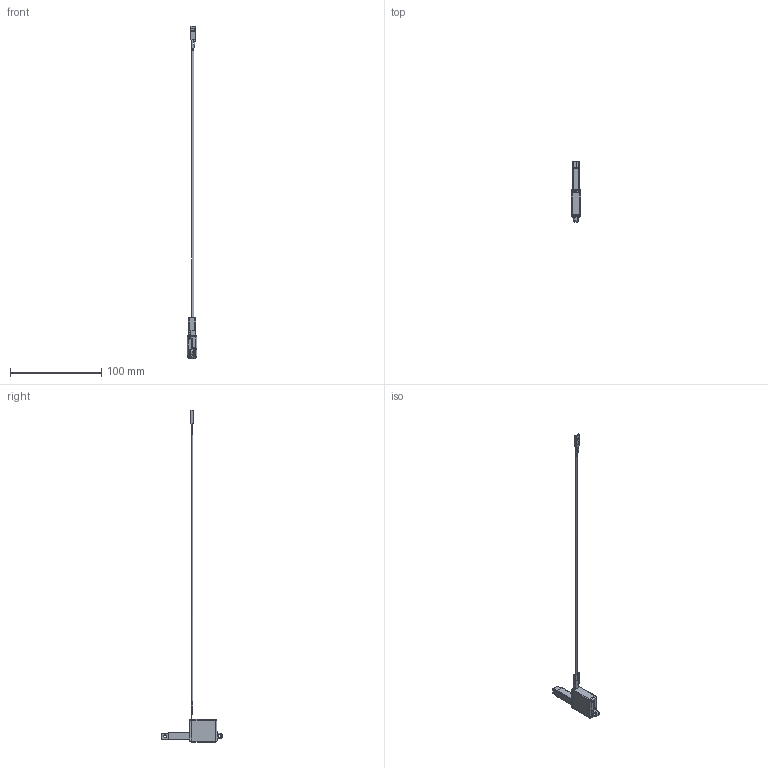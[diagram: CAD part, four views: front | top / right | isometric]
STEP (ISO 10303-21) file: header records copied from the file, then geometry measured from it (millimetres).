
FILE_DESCRIPTION((''),'2;1');
FILE_NAME('P8-25MM_ASM','2021-01-21T',('princ'),(''),'PRO/ENGINEER BY PARAMETRIC TECHNOLOGY CORPORATION, 2004440','PRO/ENGINEER BY PARAMETRIC TECHNOLOGY CORPORATION, 2004440','');
FILE_SCHEMA(('CONFIG_CONTROL_DESIGN'));
Products named in the file (3): P8_25MM_BODY; P8_25MM_SHAFT; P8-25MM_ASM
Assembly tree (2 placements, depth 2):
  P8-25MM_ASM
    P8_25MM_BODY
    P8_25MM_SHAFT
Bounding box: 10.6 x 66.3 x 362.97 mm (x, y, z)
Surface area: 12649.2 mm2 (no closed solid volume)
Topology: 0 solids, 55 shells, 447 faces, 2125 edges, 1718 vertices
Faces by surface type: cylinder 203, plane 149, bspline 50, torus 31, cone 12, sphere 2
Entity records: 47893 total; most frequent: CARTESIAN_POINT 31969, ORIENTED_EDGE 2958, DIRECTION 2890, EDGE_CURVE 2125, VERTEX_POINT 1718, VECTOR 1374, LINE 1374, AXIS2_PLACEMENT_3D 758
